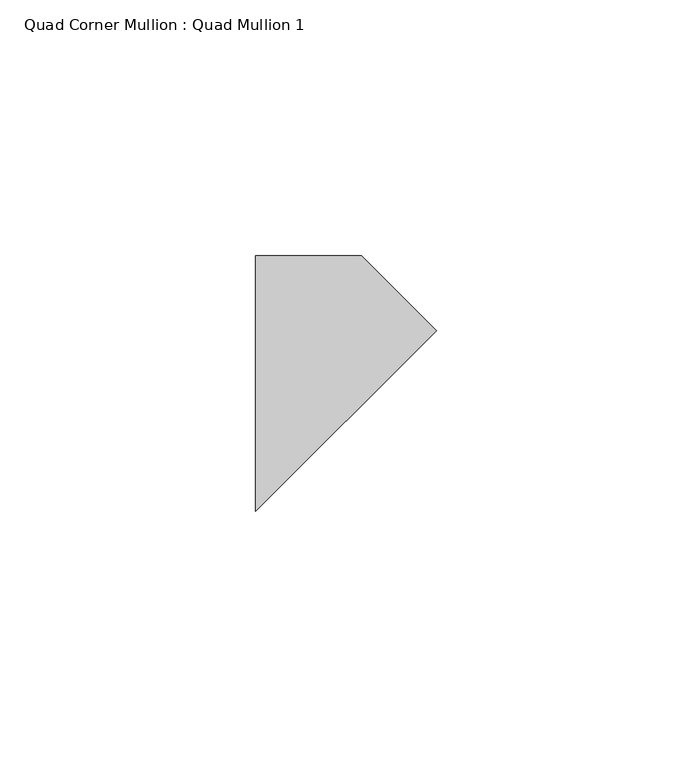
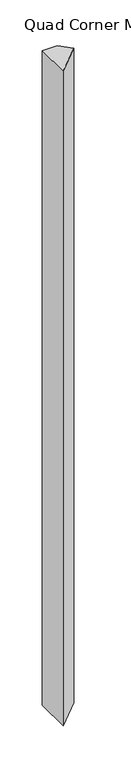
"""IFC4 building model written with IfcOpenShell, lengths in millimetres: member geometry, Quad Corner Mullion : Quad Mullion 1."""

from ifc_helpers import new_model, si_unit, frame, origin, place, context, project, spatial, polyline, outline, extrude, source, transform, mapped, element, save


def quad_corner_mullion_quad_mullion_1_98259396(model_context):
    return source(origin(), model_context, "Body", "SweptSolid", [
        extrude(outline(polyline([(25.0, 10.3553391), (-10.3553391, -25.0), (-10.3553391, 25.0), (10.3553391, 25.0), (25.0, 10.3553391)])), frame((0.0, 0.0, -950.0), z_axis=(0.0, 0.0, 1.0), x_axis=(1.0, 0.0, 0.0)), (0.0, 0.0, 1.0), 950.0),
    ])


if __name__ == "__main__":
    model = new_model("IFC4")
    model_context = context("Model", 3, world=origin())
    ifc_project = project(units=[si_unit("LENGTHUNIT", "METRE", prefix="MILLI")], contexts=[model_context])
    site = spatial("IfcSite", under=ifc_project)
    building = spatial("IfcBuilding", under=site)
    placement = place(None, origin())
    quad_corner_mullion_quad_mullion_1_shape = quad_corner_mullion_quad_mullion_1_98259396(model_context)
    element("IfcMember", 1, ObjectType="Quad Corner Mullion : Quad Mullion 1", at=placement, inside=building, context=model_context, shape_type="MappedRepresentation", body=[
        mapped(quad_corner_mullion_quad_mullion_1_shape, transform((0.0, 0.0, 0.0), x_axis=(1.0, 0.0, 0.0), y_axis=(0.0, 1.0, 0.0), z_axis=(0.0, 0.0, 1.0))),
    ])
    save(model, "model.ifc")
